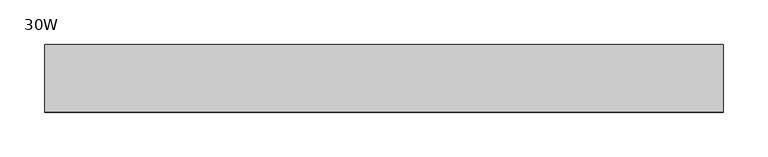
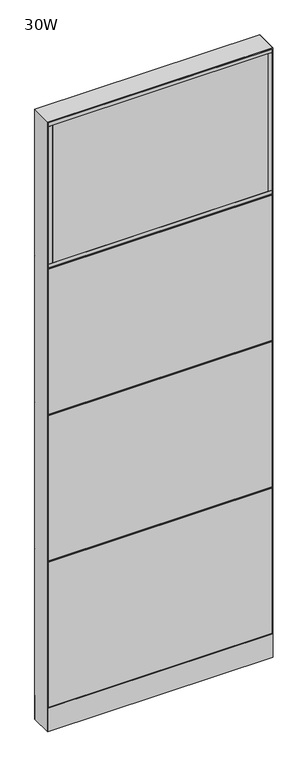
"""IFC4 building model written with IfcOpenShell, lengths in millimetres: furniture geometry, Steelcase - Montage - Frame - 86H - Enhanced Standard - Base Cavity : 30W."""

import ifcopenshell
import ifcopenshell.guid

model = None  # the IFC model being written
_history = None  # IfcOwnerHistory: only IFC2X3 demands one
_inside = {}  # id of a spatial element -> (the spatial element, [elements in it])
_under = {}  # id of a project, library or spatial element -> (it, [spatial elements below it])
_declared = {}  # id of a project -> (the project, [libraries it declares])
_typed = {}  # id of a type object -> (the type object, [elements of that type])
_made_of = {}  # id of a material, layer set ... -> (it, [elements and type objects made of it])


def new_model(schema):
    """Start an empty IFC model of exactly this schema.

    Asked for "IFC4X3", IfcOpenShell would pick the latest addendum, in which some entities
    have other attributes; the version numbers below select the first issue.
    IFC2X3 requires an IfcOwnerHistory on every rooted entity: one is made here for all.
    """
    global model, _history
    if schema == "IFC4X3":
        model = ifcopenshell.file(schema_version=(4, 3, 0, 0))
    else:
        model = ifcopenshell.file(schema=schema)
    _inside.clear()
    _under.clear()
    _declared.clear()
    _typed.clear()
    _made_of.clear()
    _history = None
    if model.schema == "IFC2X3":
        org = make("IfcOrganization", Name="unknown")
        user = make(
            "IfcPersonAndOrganization",
            ThePerson=make("IfcPerson", FamilyName="unknown"),
            TheOrganization=org,
        )
        app = make(
            "IfcApplication",
            ApplicationDeveloper=org,
            Version="unknown",
            ApplicationFullName="unknown",
            ApplicationIdentifier="unknown",
        )
        _history = make(
            "IfcOwnerHistory",
            OwningUser=user,
            OwningApplication=app,
            ChangeAction="ADDED",
            CreationDate=0,
        )
    return model


def make(cls, **values):
    """One entity of the class cls with the attributes given. An attribute that is None is left unset."""
    return model.create_entity(
        cls, **{name: value for name, value in values.items() if value is not None}
    )


def rooted(cls, **values):
    """An entity with a GlobalId (a new one), such as an element, a storey or a relation."""
    return make(cls, GlobalId=ifcopenshell.guid.new(), OwnerHistory=_history, **values)


def si_unit(unit_type, name, prefix=None):
    """IfcSIUnit, for example si_unit("LENGTHUNIT", "METRE", prefix="MILLI")."""
    return make("IfcSIUnit", UnitType=unit_type, Prefix=prefix, Name=name)


def assignment(units):
    """IfcUnitAssignment: the units of a project."""
    return None if units is None else make("IfcUnitAssignment", Units=units)


def point(xyz):
    """IfcCartesianPoint."""
    return None if xyz is None else make("IfcCartesianPoint", Coordinates=xyz)


def direction(xyz):
    """IfcDirection."""
    return None if xyz is None else make("IfcDirection", DirectionRatios=xyz)


def frame(location, z_axis=None, x_axis=None):
    """IfcAxis2Placement3D, a coordinate frame: its origin and axes. An axis left out is left unset."""
    return make(
        "IfcAxis2Placement3D",
        Location=point(location),
        Axis=direction(z_axis),
        RefDirection=direction(x_axis),
    )


def frame_2d(location, x_axis=None):
    """IfcAxis2Placement2D, a coordinate frame in the plane: its origin and x axis."""
    return make(
        "IfcAxis2Placement2D", Location=point(location), RefDirection=direction(x_axis)
    )


def origin():
    """The frame at (0, 0, 0) with its axes left unset."""
    return frame((0.0, 0.0, 0.0))


def origin_with_axes():
    """The frame at (0, 0, 0) with the z axis (0, 0, 1) and the x axis (1, 0, 0) written out."""
    return frame((0.0, 0.0, 0.0), z_axis=(0.0, 0.0, 1.0), x_axis=(1.0, 0.0, 0.0))


def place(relative_to, where):
    """IfcLocalPlacement: puts the frame where relative to a parent placement (None: the world)."""
    return make(
        "IfcLocalPlacement", PlacementRelTo=relative_to, RelativePlacement=where
    )


def context(
    kind, dimensions, precision=None, world=None, true_north=None, identifier=None
):
    """IfcGeometricRepresentationContext, for example the 3D "Model" context."""
    return make(
        "IfcGeometricRepresentationContext",
        ContextIdentifier=identifier,
        ContextType=kind,
        CoordinateSpaceDimension=dimensions,
        Precision=precision,
        WorldCoordinateSystem=world,
        TrueNorth=true_north,
    )


def project(units=None, contexts=None):
    """IfcProject with its units and contexts."""
    return rooted(
        "IfcProject",
        Name="project",
        RepresentationContexts=contexts,
        UnitsInContext=assignment(units),
    )


def spatial(cls, under=None, at=None, **own):
    """A site, building, storey or space (cls), placed at a placement, below another one or the project."""
    s = rooted(cls, ObjectPlacement=at, **own)
    if under is not None:
        _under.setdefault(under.id(), (under, []))[1].append(s)
    return s


def polyline(points):
    """IfcPolyline through the points."""
    return make("IfcPolyline", Points=[point(p) for p in points])


def circle_curve(where, radius):
    """IfcCircle in the frame where."""
    return make("IfcCircle", Position=where, Radius=radius)


def trimmed(basis, trim1, trim2, sense, master):
    """IfcTrimmedCurve: the piece of a basis curve between two trims."""
    return make(
        "IfcTrimmedCurve",
        BasisCurve=basis,
        Trim1=trim1,
        Trim2=trim2,
        SenseAgreement=sense,
        MasterRepresentation=master,
    )


def segment(curve, same_sense, transition):
    """IfcCompositeCurveSegment."""
    return make(
        "IfcCompositeCurveSegment",
        Transition=transition,
        SameSense=same_sense,
        ParentCurve=curve,
    )


def composite_curve(segments, self_intersect=None):
    """IfcCompositeCurve: segments joined end to end."""
    return make("IfcCompositeCurve", Segments=segments, SelfIntersect=self_intersect)


def outline(outer, holes=None, kind="AREA"):
    """IfcArbitraryClosedProfileDef: a profile drawn as a closed curve; with holes, ...WithVoids."""
    if holes is None:
        return make("IfcArbitraryClosedProfileDef", ProfileType=kind, OuterCurve=outer)
    return make(
        "IfcArbitraryProfileDefWithVoids",
        ProfileType=kind,
        OuterCurve=outer,
        InnerCurves=holes,
    )


def extrude(swept, where, along, depth):
    """IfcExtrudedAreaSolid: the profile swept, set in the frame where, extruded along a direction by depth."""
    return make(
        "IfcExtrudedAreaSolid",
        SweptArea=swept,
        Position=where,
        ExtrudedDirection=direction(along),
        Depth=depth,
    )


def faces_of(points, faces, orient=None, outer=None):
    """IfcFace entities. A face is a list of loops; a loop is a list of indices into points, from 0.

    orient and outer hold one flag for each loop. By default every Orientation is true, the
    first loop of a face is its IfcFaceOuterBound and the others are IfcFaceBound.
    """
    made = []
    for i, loops in enumerate(faces):
        bounds = []
        for j, loop in enumerate(loops):
            is_outer = j == 0 if outer is None else outer[i][j]
            bounds.append(
                make(
                    "IfcFaceOuterBound" if is_outer else "IfcFaceBound",
                    Bound=make("IfcPolyLoop", Polygon=[points[k] for k in loop]),
                    Orientation=True if orient is None else orient[i][j],
                )
            )
        made.append(make("IfcFace", Bounds=bounds))
    return made


def faceted_brep(points, faces, orient=None, outer=None, voids=None):
    """IfcFacetedBrep: a solid bounded by flat faces; with voids (closed shells), ...WithVoids."""
    shared = [point(p) for p in points]
    hull = make("IfcClosedShell", CfsFaces=faces_of(shared, faces, orient, outer))
    if voids is None:
        return make("IfcFacetedBrep", Outer=hull)
    return make(
        "IfcFacetedBrepWithVoids",
        Outer=hull,
        Voids=[
            make(cls, CfsFaces=faces_of(shared, fs, o, b)) for cls, fs, o, b in voids
        ],
    )


def shape(context_of_items, identifier, shape_type, items):
    """IfcShapeRepresentation: the items that make up one representation, for example the "Body"."""
    return make(
        "IfcShapeRepresentation",
        ContextOfItems=context_of_items,
        RepresentationIdentifier=identifier,
        RepresentationType=shape_type,
        Items=items,
    )


def source(mapping_origin, context_of_items, identifier, shape_type, items):
    """IfcRepresentationMap: a shape defined once, which mapped items show again and again."""
    return make(
        "IfcRepresentationMap",
        MappingOrigin=mapping_origin,
        MappedRepresentation=shape(context_of_items, identifier, shape_type, items),
    )


def transform(
    local_origin,
    x_axis=None,
    y_axis=None,
    z_axis=None,
    scale=None,
    scale2=None,
    scale3=None,
    uniform=True,
):
    """IfcCartesianTransformationOperator3D, or its non-uniform kind. x_axis, y_axis, z_axis: its Axis1, 2, 3."""
    if uniform:
        return make(
            "IfcCartesianTransformationOperator3D",
            Axis1=direction(x_axis),
            Axis2=direction(y_axis),
            LocalOrigin=point(local_origin),
            Scale=scale,
            Axis3=direction(z_axis),
        )
    return make(
        "IfcCartesianTransformationOperator3DnonUniform",
        Axis1=direction(x_axis),
        Axis2=direction(y_axis),
        LocalOrigin=point(local_origin),
        Scale=scale,
        Axis3=direction(z_axis),
        Scale2=scale2,
        Scale3=scale3,
    )


def mapped(mapping_source, mapping_target):
    """IfcMappedItem: shows the shape of a source again, moved by a transform."""
    return make(
        "IfcMappedItem", MappingSource=mapping_source, MappingTarget=mapping_target
    )


def made_of(thing, what):
    """Note that an element or type object is made of a material, layer set ...; save() writes the relation."""
    if what is not None:
        _made_of.setdefault(what.id(), (what, []))[1].append(thing)
    return thing


def element(
    cls,
    number,
    at=None,
    inside=None,
    cuts=None,
    type_object=None,
    material=None,
    context=None,
    identifier="Body",
    shape_type=None,
    held_by="IfcProductDefinitionShape",
    body=None,
    shapes=None,
    **own,
):
    """One element of the class cls, such as IfcWall. Its Tag is "e" and its number.

    at: its placement. inside: the storey or other place that contains it. cuts: it is an
    opening in that element (IfcRelVoidsElement). A single representation is given by context,
    identifier, shape_type and body (its items); several are given by shapes. held_by: the class
    of the entity that holds the representations. save() writes the other relations.
    """
    e = rooted(cls, Tag="e%d" % number, ObjectPlacement=at, **own)
    if body is not None:
        shapes = [shape(context, identifier, shape_type, body)]
    if shapes is not None:
        e.Representation = make(held_by, Representations=shapes)
    if inside is not None:
        _inside.setdefault(inside.id(), (inside, []))[1].append(e)
    if cuts is not None:
        rooted(
            "IfcRelVoidsElement", RelatingBuildingElement=cuts, RelatedOpeningElement=e
        )
    if type_object is not None:
        _typed.setdefault(type_object.id(), (type_object, []))[1].append(e)
    return made_of(e, material)


def aggregate(whole, parts):
    """IfcRelAggregates: a whole, such as a stair, and the parts it consists of."""
    return rooted("IfcRelAggregates", RelatingObject=whole, RelatedObjects=parts)


def save(model, path):
    """Write the relations noted so far, then the file.

    IfcRelAggregates (storeys below a building ...), IfcRelContainedInSpatialStructure (elements
    in a storey), IfcRelDefinesByType, IfcRelAssociatesMaterial and IfcRelDeclares: one each for
    every whole, place, type object, material and project.
    """
    for whole, parts in _under.values():
        aggregate(whole, parts)
    for where, things in _inside.values():
        rooted(
            "IfcRelContainedInSpatialStructure",
            RelatedElements=things,
            RelatingStructure=where,
        )
    for kind, things in _typed.values():
        rooted("IfcRelDefinesByType", RelatedObjects=things, RelatingType=kind)
    for what, things in _made_of.values():
        rooted("IfcRelAssociatesMaterial", RelatedObjects=things, RelatingMaterial=what)
    for by, libraries in _declared.values():
        rooted("IfcRelDeclares", RelatingContext=by, RelatedDefinitions=libraries)
    model.write(path)


def furniture_30w_30107077(model_context):
    return source(origin(), model_context, "Body", "SolidModel", [
        faceted_brep([(-5.4e-06, 38.102627, 1660.5249973), (6.3499917, 31.7526299, 1654.1750003), (6.3499917, 31.7526299, 1666.8749997), (755.6500047, 31.7526299, 1666.8749997), (755.6500047, 31.7526299, 1654.1750003), (762.0, 38.1026253, 1660.5249956)], [[[0, 1, 2]], [[3, 4, 5]], [[0, 2, 3, 5]], [[5, 4, 1, 0]], [[2, 1, 4, 3]]]),
        faceted_brep([(-5.4e-06, 38.102627, 1136.6499973), (6.3499917, 31.7526299, 1130.3000003), (6.3499917, 31.7526299, 1142.9999997), (755.6500047, 31.7526299, 1142.9999997), (755.6500047, 31.7526299, 1130.3000003), (762.0, 38.1026253, 1136.6499956)], [[[0, 1, 2]], [[3, 4, 5]], [[0, 2, 3, 5]], [[5, 4, 1, 0]], [[2, 1, 4, 3]]]),
        faceted_brep([(-5.4e-06, 38.102627, 612.7749973), (6.3499917, 31.7526299, 606.4250003), (6.3499917, 31.7526299, 619.1249997), (755.6500047, 31.7526299, 619.1249997), (755.6500047, 31.7526299, 606.4250003), (762.0, 38.1026253, 612.7749956)], [[[0, 1, 2]], [[3, 4, 5]], [[0, 2, 3, 5]], [[5, 4, 1, 0]], [[2, 1, 4, 3]]]),
        extrude(outline(polyline([(3.175, 31.7500194), (3.175, 38.1000194), (758.825, 38.1000194), (758.825, 31.7500194), (3.175, 31.7500194)])), frame((0.0, 0.0, 1139.825), z_axis=(0.0, 0.0, 1.0), x_axis=(1.0, 0.0, 0.0)), (0.0, 0.0, 1.0), 517.525),
        extrude(outline(polyline([(3.175, 31.7500194), (3.175, 38.1000194), (758.825, 38.1000194), (758.825, 31.7500194), (3.175, 31.7500194)])), frame((0.0, 0.0, 615.95), z_axis=(0.0, 0.0, 1.0), x_axis=(1.0, 0.0, 0.0)), (0.0, 0.0, 1.0), 517.525),
        extrude(outline(polyline([(3.175, 31.7500194), (3.175, 38.1000194), (758.825, 38.1000194), (758.825, 31.7500194), (3.175, 31.7500194)])), frame((0.0, 0.0, 92.075), z_axis=(0.0, 0.0, 1.0), x_axis=(1.0, 0.0, 0.0)), (0.0, 0.0, 1.0), 517.525),
        extrude(outline(polyline([(746.125, 38.1000015), (746.125, 31.7500017), (15.875, 31.7500017), (15.875, 38.1000015), (746.125, 38.1000015)])), frame((0.0, 0.0, 1676.4), z_axis=(0.0, 0.0, 1.0), x_axis=(1.0, 0.0, 0.0)), (0.0, 0.0, 1.0), 492.125),
        extrude(outline(polyline([(746.125, -31.7499985), (746.125, -38.1000015), (15.875, -38.1000015), (15.875, -31.7499985), (746.125, -31.7499985)])), frame((0.0, 0.0, 1676.4), z_axis=(0.0, 0.0, 1.0), x_axis=(1.0, 0.0, 0.0)), (0.0, 0.0, 1.0), 492.125),
        extrude(outline(polyline([(758.825, -38.1000015), (746.125, -38.1000015), (746.125, 38.1000015), (758.825, 38.1000015), (758.825, -38.1000015)])), frame((0.0, 0.0, 1676.4), z_axis=(0.0, 0.0, 1.0), x_axis=(1.0, 0.0, 0.0)), (0.0, 0.0, 1.0), 492.125),
        extrude(outline(polyline([(15.875, -38.1000015), (3.175, -38.1000015), (3.175, 38.1000015), (15.875, 38.1000015), (15.875, -38.1000015)])), frame((0.0, 0.0, 1676.4), z_axis=(0.0, 0.0, 1.0), x_axis=(1.0, 0.0, 0.0)), (0.0, 0.0, 1.0), 492.125),
        extrude(outline(polyline([(758.825, -38.1000015), (3.175, -38.1000015), (3.175, 38.1000015), (758.825, 38.1000015), (758.825, -38.1000015)])), frame((0.0, 0.0, 1663.7), z_axis=(0.0, 0.0, 1.0), x_axis=(1.0, 0.0, 0.0)), (0.0, 0.0, 1.0), 12.7),
        extrude(outline(polyline([(758.825, -38.1000015), (3.175, -38.1000015), (3.175, 38.1000015), (758.825, 38.1000015), (758.825, -38.1000015)])), frame((0.0, 0.0, 2168.525), z_axis=(0.0, 0.0, 1.0), x_axis=(1.0, 0.0, 0.0)), (0.0, 0.0, 1.0), 12.7),
        faceted_brep([(-5.4e-06, -38.102627, 1660.5250027), (6.3499917, -31.7526299, 1666.8749997), (6.3499917, -31.7526299, 1654.1750003), (755.6500047, -31.7526299, 1666.8749997), (762.0, -38.1026253, 1660.5250044), (755.6500047, -31.7526299, 1654.1750003)], [[[0, 1, 2]], [[3, 4, 5]], [[0, 4, 3, 1]], [[4, 0, 2, 5]], [[1, 3, 5, 2]]]),
        faceted_brep([(-5.4e-06, -38.102627, 1136.6500027), (6.3499917, -31.7526299, 1142.9999997), (6.3499917, -31.7526299, 1130.3000003), (755.6500047, -31.7526299, 1142.9999997), (762.0, -38.1026253, 1136.6500044), (755.6500047, -31.7526299, 1130.3000003)], [[[0, 1, 2]], [[3, 4, 5]], [[0, 4, 3, 1]], [[4, 0, 2, 5]], [[1, 3, 5, 2]]]),
        faceted_brep([(-5.4e-06, -38.102627, 612.7750027), (6.3499917, -31.7526299, 619.1249997), (6.3499917, -31.7526299, 606.4250003), (755.6500047, -31.7526299, 619.1249997), (762.0, -38.1026253, 612.7750044), (755.6500047, -31.7526299, 606.4250003)], [[[0, 1, 2]], [[3, 4, 5]], [[0, 4, 3, 1]], [[4, 0, 2, 5]], [[1, 3, 5, 2]]]),
        extrude(outline(polyline([(3.175, -31.7500194), (758.825, -31.7500194), (758.825, -38.1000194), (3.175, -38.1000194), (3.175, -31.7500194)])), frame((0.0, 0.0, 1139.825), z_axis=(0.0, 0.0, 1.0), x_axis=(1.0, 0.0, 0.0)), (0.0, 0.0, 1.0), 517.525),
        extrude(outline(polyline([(3.175, -31.7500194), (758.825, -31.7500194), (758.825, -38.1000194), (3.175, -38.1000194), (3.175, -31.7500194)])), frame((0.0, 0.0, 615.95), z_axis=(0.0, 0.0, 1.0), x_axis=(1.0, 0.0, 0.0)), (0.0, 0.0, 1.0), 517.525),
        extrude(outline(polyline([(3.175, -31.7500194), (758.825, -31.7500194), (758.825, -38.1000194), (3.175, -38.1000194), (3.175, -31.7500194)])), frame((0.0, 0.0, 92.075), z_axis=(0.0, 0.0, 1.0), x_axis=(1.0, 0.0, 0.0)), (0.0, 0.0, 1.0), 517.525),
        extrude(outline(polyline([(746.125, -38.1000015), (15.875, -38.1000015), (15.875, -31.7500017), (746.125, -31.7500017), (746.125, -38.1000015)])), frame((0.0, 0.0, 1676.4), z_axis=(0.0, 0.0, 1.0), x_axis=(1.0, 0.0, 0.0)), (0.0, 0.0, 1.0), 492.125),
        extrude(outline(polyline([(746.125, 31.7499985), (15.875, 31.7499985), (15.875, 38.1000015), (746.125, 38.1000015), (746.125, 31.7499985)])), frame((0.0, 0.0, 1676.4), z_axis=(0.0, 0.0, 1.0), x_axis=(1.0, 0.0, 0.0)), (0.0, 0.0, 1.0), 492.125),
        extrude(outline(polyline([(758.825, 38.1000015), (758.825, -38.1000015), (746.125, -38.1000015), (746.125, 38.1000015), (758.825, 38.1000015)])), frame((0.0, 0.0, 1676.4), z_axis=(0.0, 0.0, 1.0), x_axis=(1.0, 0.0, 0.0)), (0.0, 0.0, 1.0), 492.125),
        extrude(outline(polyline([(15.875, 38.1000015), (15.875, -38.1000015), (3.175, -38.1000015), (3.175, 38.1000015), (15.875, 38.1000015)])), frame((0.0, 0.0, 1676.4), z_axis=(0.0, 0.0, 1.0), x_axis=(1.0, 0.0, 0.0)), (0.0, 0.0, 1.0), 492.125),
        extrude(outline(polyline([(758.825, 38.1000015), (758.825, -38.1000015), (3.175, -38.1000015), (3.175, 38.1000015), (758.825, 38.1000015)])), frame((0.0, 0.0, 1663.7), z_axis=(0.0, 0.0, 1.0), x_axis=(1.0, 0.0, 0.0)), (0.0, 0.0, 1.0), 12.7),
        extrude(outline(polyline([(758.825, 38.1000015), (758.825, -38.1000015), (3.175, -38.1000015), (3.175, 38.1000015), (758.825, 38.1000015)])), frame((0.0, 0.0, 2168.525), z_axis=(0.0, 0.0, 1.0), x_axis=(1.0, 0.0, 0.0)), (0.0, 0.0, 1.0), 12.7),
        extrude(outline(polyline([(6.350003, -31.7499985), (755.649997, -31.7499985), (762.0, -38.1000015), (0.0, -38.1000015), (6.350003, -31.7499985)])), frame((0.0, 0.0, 4.064), z_axis=(0.0, 0.0, 1.0), x_axis=(1.0, 0.0, 0.0)), (0.0, 0.0, 1.0), 84.835997),
        extrude(outline(polyline([(6.3500002, 31.7500017), (0.0, 38.1000015), (762.0, 38.1000015), (755.6500002, 31.7500017), (6.3500002, 31.7500017)])), frame((0.0, 0.0, 4.064), z_axis=(0.0, 0.0, 1.0), x_axis=(1.0, 0.0, 0.0)), (0.0, 0.0, 1.0), 84.835997),
        faceted_brep([(762.0, -38.1000015, 2184.4), (0.0, -38.1000015, 2184.4), (6.3500484, -31.749953, 2178.0499516), (755.6499516, -31.749953, 2178.0499516), (6.3500484, 31.749953, 2178.0499516), (755.6499516, 31.749953, 2178.0499516), (0.0, 38.1000015, 2184.4), (762.0, 38.1000015, 2184.4)], [[[0, 1, 2, 3]], [[3, 2, 4, 5]], [[6, 7, 5, 4]], [[1, 0, 7, 6]], [[2, 1, 6, 4]], [[0, 3, 5, 7]]]),
        extrude(outline(composite_curve([segment(trimmed(circle_curve(frame_2d((44.45, 0.0)), 15.24), [point((29.21, 0.0))], [point((59.69, 0.0))], False, "CARTESIAN"), True, "CONTINUOUS"), segment(trimmed(circle_curve(frame_2d((44.45, 0.0)), 15.24), [point((59.69, 0.0))], [point((29.21, 0.0))], False, "CARTESIAN"), True, "CONTINUOUS")], self_intersect=False)), origin_with_axes(), (0.0, 0.0, 1.0), 4.064),
        extrude(outline(composite_curve([segment(trimmed(circle_curve(frame_2d((717.55, 0.0)), 15.24), [point((702.31, 0.0))], [point((732.79, 0.0))], False, "CARTESIAN"), True, "CONTINUOUS"), segment(trimmed(circle_curve(frame_2d((717.55, 0.0)), 15.24), [point((732.79, 0.0))], [point((702.31, 0.0))], False, "CARTESIAN"), True, "CONTINUOUS")], self_intersect=False)), origin_with_axes(), (0.0, 0.0, 1.0), 4.064),
        faceted_brep([(762.0, -38.1000106, 4.064), (762.0, 38.1000015, 4.064), (762.0, 38.1000015, 2184.4), (762.0, -38.1000106, 2184.3999637), (0.0, 38.1000015, 4.064), (0.0, -38.1000015, 4.064), (0.0, -38.1000015, 2184.4), (0.0, 38.1000015, 2184.4), (755.6499879, 31.7500017, 606.425), (6.35, 31.7500017, 606.425), (6.3499998, 31.7500017, 619.125), (755.6499879, 31.7500017, 619.125), (6.35, -31.7499985, 619.125), (755.6499879, -31.7499985, 619.125), (6.350003, -31.7499985, 606.425), (755.6499879, -31.7499985, 606.425), (755.6499879, 31.7500017, 1130.3), (6.35, 31.7500017, 1130.3), (6.3499998, 31.7500017, 1143.0), (755.6499879, 31.7500017, 1143.0), (6.35, -31.7499985, 1143.0), (755.6499879, -31.7499985, 1143.0), (6.350003, -31.7499985, 1130.3), (755.6499879, -31.7499985, 1130.3), (755.6499879, 31.7500017, 1654.175), (6.35, 31.7500017, 1654.175), (6.3499998, 31.7500017, 1666.875), (755.6499879, 31.7500017, 1666.875), (6.35, -31.7499985, 1666.875), (755.6499879, -31.7499985, 1666.875), (6.350003, -31.7499985, 1654.175), (755.6499879, -31.7499985, 1654.175), (6.35, 31.7500015, 4.064), (6.35, -31.7500015, 4.064), (755.6499879, 31.7499894, 4.064), (755.6499879, -31.7499985, 4.064), (6.35, 31.7500015, 2178.05), (6.35, -31.7500015, 2178.05), (755.6499879, -31.7499985, 2178.0499516), (755.6499879, 31.7499895, 2178.0499516)], [[[0, 1, 2, 3]], [[4, 5, 6, 7]], [[8, 9, 10, 11]], [[11, 10, 12, 13]], [[13, 12, 14, 15]], [[9, 8, 15, 14]], [[16, 17, 18, 19]], [[19, 18, 20, 21]], [[21, 20, 22, 23]], [[17, 16, 23, 22]], [[24, 25, 26, 27]], [[27, 26, 28, 29]], [[29, 28, 30, 31]], [[25, 24, 31, 30]], [[32, 33, 5, 4]], [[34, 1, 0, 35]], [[32, 4, 7, 36, 26, 25, 18, 17, 10, 9]], [[5, 33, 14, 12, 22, 20, 30, 28, 37, 6]], [[28, 26, 36, 37]], [[33, 32, 9, 14]], [[18, 25, 30, 20]], [[10, 17, 22, 12]], [[27, 29, 38, 39]], [[34, 35, 15, 8]], [[16, 11, 13, 23]], [[24, 19, 21, 31]], [[35, 0, 3, 38, 29, 31, 21, 23, 13, 15]], [[1, 34, 8, 11, 16, 19, 24, 27, 39, 2]], [[7, 6, 37, 36]], [[3, 2, 39, 38]]]),
    ])


if __name__ == "__main__":
    model = new_model("IFC4")
    model_context = context("Model", 3, world=origin())
    ifc_project = project(units=[si_unit("LENGTHUNIT", "METRE", prefix="MILLI")], contexts=[model_context])
    site = spatial("IfcSite", under=ifc_project)
    building = spatial("IfcBuilding", under=site)
    placement = place(None, origin())
    furniture_30w_shape = furniture_30w_30107077(model_context)
    element("IfcFurniture", 1, ObjectType="Steelcase - Montage - Frame - 86H - Enhanced Standard - Base Cavity : 30W", at=placement, inside=building, context=model_context, shape_type="MappedRepresentation", body=[
        mapped(furniture_30w_shape, transform((0.0, 0.0, 0.0), x_axis=(1.0, 0.0, 0.0), y_axis=(0.0, 1.0, 0.0), z_axis=(0.0, 0.0, 1.0))),
    ])
    save(model, "model.ifc")
